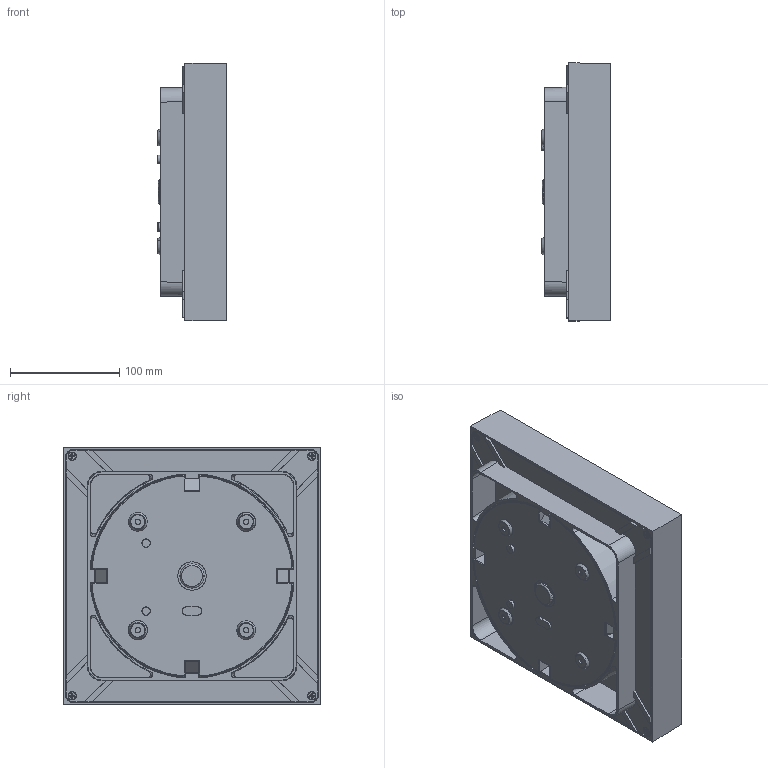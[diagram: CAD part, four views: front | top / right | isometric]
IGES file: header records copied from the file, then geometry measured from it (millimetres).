
Start section: SolidWorks IGES file using analytic representation for surfaces
Global section: file name: \\srvficheros\grupos\DISENYO\DESARROLLO DE PRODUCTO\_3D_WEB\NEXUS-P2083171\NEXUS-P2083171.IGS; native system: SolidWorks 2025; preprocessor: SolidWorks 2025; author: d.pons; date: 260115.071954; units: millimetre
Bounding box: 63 x 235.66 x 235.66 mm (x, y, z)
Surface area: 514847.4 mm2 (no closed solid volume)
Topology: 0 solids, 0 shells, 944 faces, 10116 edges, 10077 vertices
Faces by surface type: bspline 545, revolution 399
